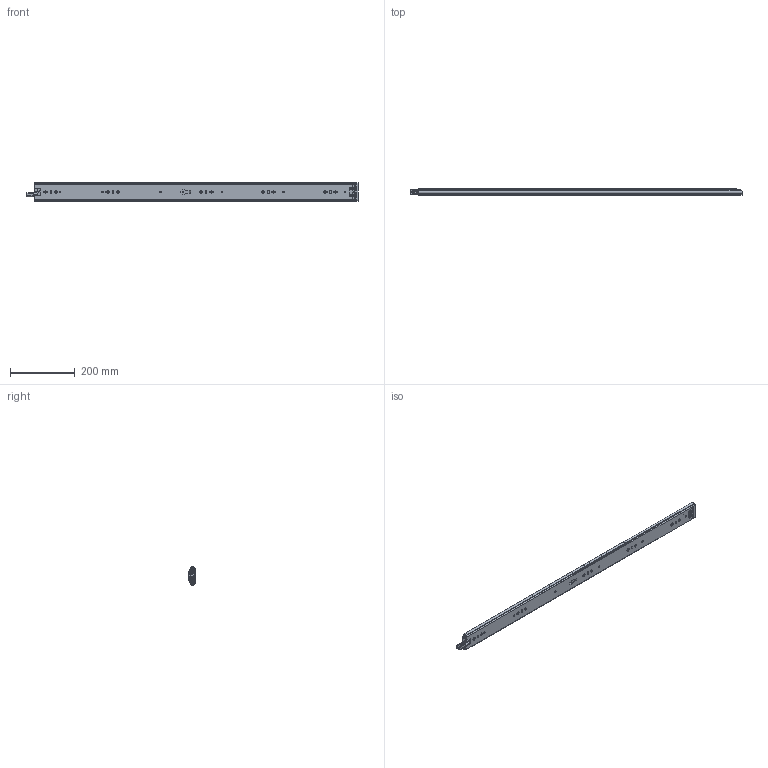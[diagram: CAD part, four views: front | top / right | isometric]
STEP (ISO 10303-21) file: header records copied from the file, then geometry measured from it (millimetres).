
FILE_DESCRIPTION((''),'2;1');
FILE_NAME('KP-57-01ZUZHUANGTU-40_ASM','2023-04-01T',('jishu015'),(''),'PRO/ENGINEER BY PARAMETRIC TECHNOLOGY CORPORATION, 2010280','PRO/ENGINEER BY PARAMETRIC TECHNOLOGY CORPORATION, 2010280','');
FILE_SCHEMA(('CONFIG_CONTROL_DESIGN'));
Products named in the file (22): KP-57-01WEIKE-18______; 1057WEIJIAO______; WAIKE_____ASM; KP-57-01ZHONGGUI-18______; ZHONGGUIPEIJIAN-11____; ZHONGGUISUOKOU-11____; KP-57-01ZHONGGUI-18_______ASM; 1057XIAOZHUJIA______; 1057-5-6GANZHU______; 1057XIAOZHUJIA-14GE_______ASM; KP-57-01NEIGUI-18______; PJ-57-08____; DIAOPIAN-11____; 50XINSUOKOU-1____; TANHUANG____; 1053-3SBANJI122__; JIAO11__; KP-57-01NEIGUI-18_______ASM; 1053ZHUTIAO-175__________; 53-5-6GANZHU__________; 1053ZHUTIAO-175MM_____ASM; KP-57-01ZUZHUANGTU-40_ASM
Assembly tree (110 placements, depth 3):
  KP-57-01ZUZHUANGTU-40_ASM
    WAIKE_____ASM
      KP-57-01WEIKE-18______
      1057WEIJIAO______
    KP-57-01ZHONGGUI-18_______ASM
      KP-57-01ZHONGGUI-18______
      ZHONGGUIPEIJIAN-11____
      ZHONGGUISUOKOU-11____
    1057XIAOZHUJIA-14GE_______ASM
      1057XIAOZHUJIA______
      1057-5-6GANZHU______  x72
    KP-57-01NEIGUI-18_______ASM
      KP-57-01NEIGUI-18______
      PJ-57-08____
      DIAOPIAN-11____
      50XINSUOKOU-1____
      TANHUANG____
      1053-3SBANJI122__
      JIAO11__
    1053ZHUTIAO-175MM_____ASM  x2
      1053ZHUTIAO-175__________
      53-5-6GANZHU__________
Bounding box: 1025.42 x 19 x 57.67 mm (x, y, z)
Volume: 439596.9 mm3; surface area: 480146.8 mm2
Topology: 125 solids, 125 shells, 2994 faces, 8664 edges, 5391 vertices
Faces by surface type: cylinder 1313, plane 1188, sphere 227, bspline 134, cone 84, torus 25, extrusion 23
Entity records: 95919 total; most frequent: CARTESIAN_POINT 23525, ORIENTED_EDGE 15324, DIRECTION 14939, EDGE_CURVE 7662, AXIS2_PLACEMENT_3D 5169, VERTEX_POINT 4947, VECTOR 4601, LINE 4578
